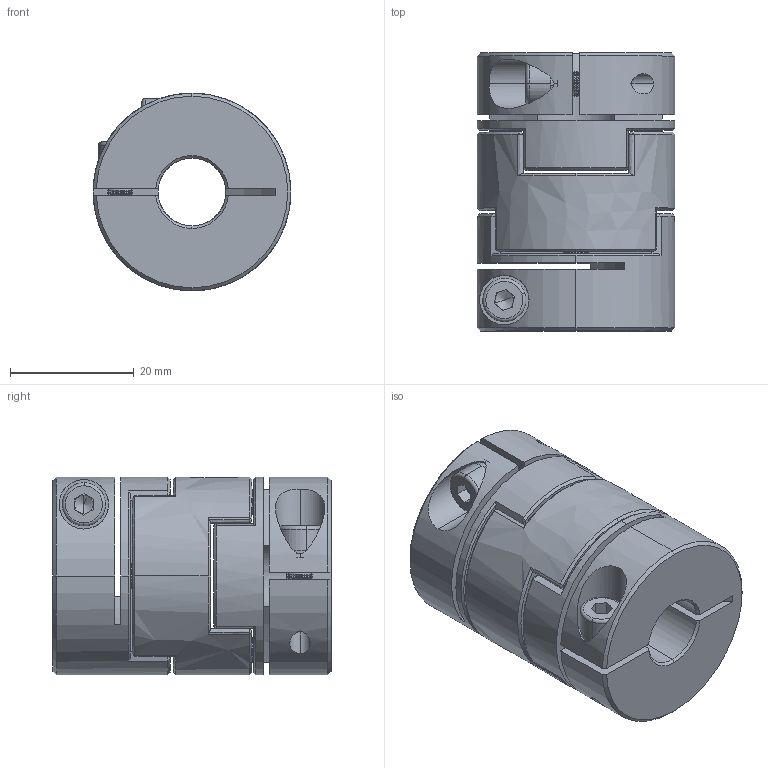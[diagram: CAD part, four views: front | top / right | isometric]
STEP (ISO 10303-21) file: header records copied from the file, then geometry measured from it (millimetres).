
FILE_DESCRIPTION (( 'STEP AP203' ), '1' );
FILE_NAME ('LZ-B-D32L45-11-14.STEP', '2021-10-29T06:46:48', ( '' ), ( '' ), 'SwSTEP 2.0', 'SolidWorks 2018', '' );
FILE_SCHEMA (( 'CONFIG_CONTROL_DESIGN' ));
Length unit declared in the file: millimetre
Products named in the file (1): LZ-B-D32L45-11-14
Bounding box: 32 x 45 x 32 mm (x, y, z)
Volume: 27709.5 mm3; surface area: 13091.2 mm2
Topology: 1 solids, 1 shells, 356 faces, 856 edges, 498 vertices
Faces by surface type: cone 118, cylinder 92, plane 84, bspline 54, torus 8
Entity records: 11145 total; most frequent: CARTESIAN_POINT 3197, ORIENTED_EDGE 1704, DIRECTION 1578, EDGE_CURVE 852, AXIS2_PLACEMENT_3D 619, VERTEX_POINT 498, EDGE_LOOP 382, FACE_OUTER_BOUND 356
